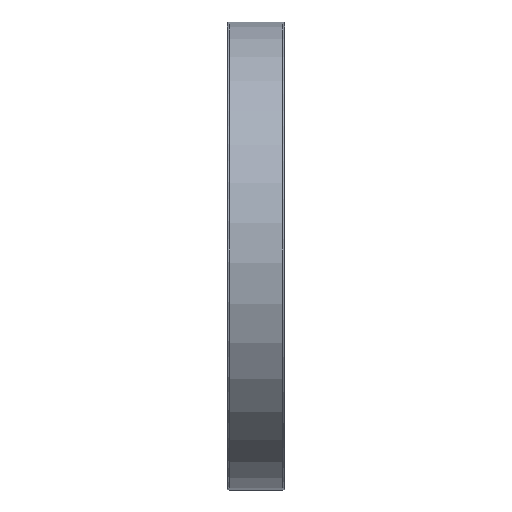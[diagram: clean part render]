
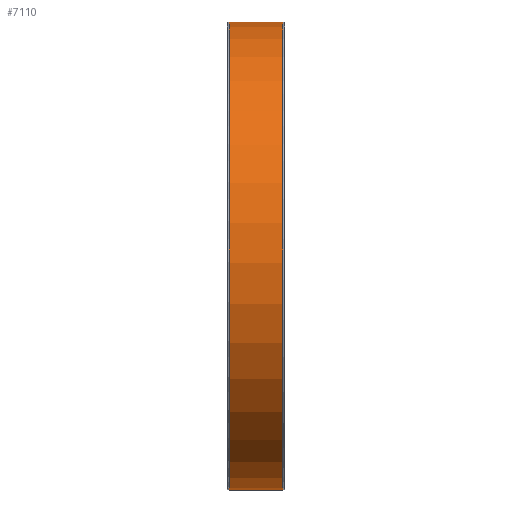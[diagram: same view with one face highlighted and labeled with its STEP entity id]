
A CAD part, left-side view. The second image highlights one B-rep face of the part: STEP entity #7110.
In plain terms, the highlighted cylindrical face has radius 57.1 mm (diameter 114.2 mm), a partial arc.
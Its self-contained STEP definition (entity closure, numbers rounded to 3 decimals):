
#321 = CARTESIAN_POINT ( 'NONE',  ( 1.767, 13.5, -57.073 ) ) ;
#464 = CIRCLE ( 'NONE', #18326, 57.1 ) ;
#926 = ORIENTED_EDGE ( 'NONE', *, *, #20738, .F. ) ;
#2594 = VERTEX_POINT ( 'NONE', #22468 ) ;
#3125 = DIRECTION ( 'NONE',  ( -0.031, 0., 1. ) ) ;
#3346 = CIRCLE ( 'NONE', #4883, 57.1 ) ;
#3428 = CARTESIAN_POINT ( 'NONE',  ( -1.767, 13.5, 57.073 ) ) ;
#4883 = AXIS2_PLACEMENT_3D ( 'NONE', #5813, #11497, #22132 ) ;
#5230 = VECTOR ( 'NONE', #9476, 1000. ) ;
#5813 = CARTESIAN_POINT ( 'NONE',  ( 0., 13.5, 0. ) ) ;
#6627 = VERTEX_POINT ( 'NONE', #7640 ) ;
#7110 = ADVANCED_FACE ( 'NONE', ( #23490 ), #15964, .T. ) ;
#7521 = CARTESIAN_POINT ( 'NONE',  ( 1.767, 0.5, -57.073 ) ) ;
#7640 = CARTESIAN_POINT ( 'NONE',  ( 1.767, 13.5, -57.073 ) ) ;
#8596 = DIRECTION ( 'NONE',  ( 0., 1., 0. ) ) ;
#8670 = LINE ( 'NONE', #3428, #19635 ) ;
#8780 = DIRECTION ( 'NONE',  ( 0., -1., 0. ) ) ;
#9113 = ORIENTED_EDGE ( 'NONE', *, *, #23377, .T. ) ;
#9350 = LINE ( 'NONE', #321, #5230 ) ;
#9476 = DIRECTION ( 'NONE',  ( 0., -1., 0. ) ) ;
#10833 = EDGE_LOOP ( 'NONE', ( #926, #14560, #9113, #21979 ) ) ;
#11497 = DIRECTION ( 'NONE',  ( 0., 1., 0. ) ) ;
#12232 = EDGE_CURVE ( 'NONE', #22682, #17172, #464, .T. ) ;
#13796 = CARTESIAN_POINT ( 'NONE',  ( -1.767, 0.5, 57.073 ) ) ;
#14058 = EDGE_CURVE ( 'NONE', #6627, #2594, #3346, .T. ) ;
#14560 = ORIENTED_EDGE ( 'NONE', *, *, #14058, .F. ) ;
#15964 = CYLINDRICAL_SURFACE ( 'NONE', #20421, 57.1 ) ;
#17172 = VERTEX_POINT ( 'NONE', #13796 ) ;
#18326 = AXIS2_PLACEMENT_3D ( 'NONE', #19444, #8596, #3125 ) ;
#19057 = DIRECTION ( 'NONE',  ( 0.031, 0., -1. ) ) ;
#19444 = CARTESIAN_POINT ( 'NONE',  ( 0., 0.5, 0. ) ) ;
#19635 = VECTOR ( 'NONE', #8780, 1000. ) ;
#20421 = AXIS2_PLACEMENT_3D ( 'NONE', #20950, #22500, #19057 ) ;
#20738 = EDGE_CURVE ( 'NONE', #2594, #17172, #8670, .T. ) ;
#20950 = CARTESIAN_POINT ( 'NONE',  ( 0., 13.5, 0. ) ) ;
#21979 = ORIENTED_EDGE ( 'NONE', *, *, #12232, .T. ) ;
#22132 = DIRECTION ( 'NONE',  ( -0.031, 0., 1. ) ) ;
#22468 = CARTESIAN_POINT ( 'NONE',  ( -1.767, 13.5, 57.073 ) ) ;
#22500 = DIRECTION ( 'NONE',  ( 0., -1., 0. ) ) ;
#22682 = VERTEX_POINT ( 'NONE', #7521 ) ;
#23377 = EDGE_CURVE ( 'NONE', #6627, #22682, #9350, .T. ) ;
#23490 = FACE_OUTER_BOUND ( 'NONE', #10833, .T. ) ;
